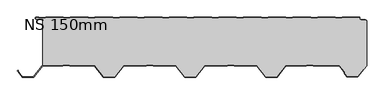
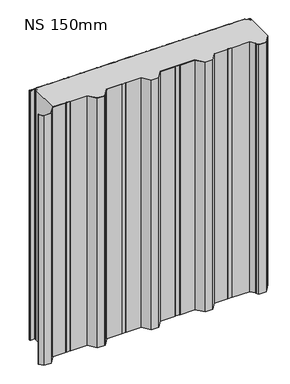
"""IFC4 building model written with IfcOpenShell, lengths in millimetres: plate geometry, KIP-MEX-KC-R19-CP-NS-SL : NS 150mm."""

from ifc_helpers import new_model, si_unit, point, frame, frame_2d, origin, origin_with_axes, place, context, project, spatial, polyline, circle_curve, trimmed, segment, composite_curve, outline, extrude, source, transform, mapped, element, save
from ifc_brep_helpers import plane_surface, cylinder_surface, revolved_surface, advanced_brep


def ns_150mm_ed0a11b4(model_context):
    return source(origin(), model_context, "Body", "SolidModel", [
        advanced_brep(
        [(489.051258, -160.0327477, 1224.3718713), (491.4166419, -155.6292245, 1224.3718713), (492.2982989, -156.1011177, 1224.3718713), (489.8911639, -160.5823669, 1224.3718713), (498.3652789, -149.7971296, 1224.3718713), (498.3666923, -11.2514375, 1224.3718713), (496.0840542, -13.6351997, 1224.3718713), (490.2938452, -14.1562355, 1224.3718713), (490.2059002, -13.178913, 1224.3718713), (495.9395891, -12.6629632, 1224.3718713), (497.3642752, -10.8760369, 1224.3718713), (495.9342793, -8.8936988, 1224.3718713), (479.8720443, -7.4885937, 1224.3718713), (477.1334803, -4.5000049, 1224.3718713), (477.1334803, -1.0, 1224.3718713), (424.1786391, -1.0, 1224.3718713), (422.7930062, -2.2002307, 1224.3718713), (403.4178399, -2.2002307, 1224.3718713), (402.0322069, -1.0, 1224.3718713), (347.9787915, -1.0, 1224.3718713), (346.5931586, -2.2002307, 1224.3718713), (327.2179923, -2.2002307, 1224.3718713), (325.8323593, -1.0, 1224.3718713), (271.7789439, -1.0, 1224.3718713), (270.393311, -2.2002307, 1224.3718713), (251.0181447, -2.2002307, 1224.3718713), (249.6325117, -1.0, 1224.3718713), (195.5790963, -1.0, 1224.3718713), (194.1934634, -2.2002307, 1224.3718713), (174.8182971, -2.2002307, 1224.3718713), (173.4326641, -1.0, 1224.3718713), (119.3792487, -1.0, 1224.3718713), (117.9936158, -2.2002307, 1224.3718713), (98.6184495, -2.2002307, 1224.3718713), (97.2328165, -1.0, 1224.3718713), (43.1794011, -1.0, 1224.3718713), (41.7937682, -2.2002307, 1224.3718713), (22.4186019, -2.2002307, 1224.3718713), (21.0329689, -1.0, 1224.3718713), (-33.0204465, -1.0, 1224.3718713), (-34.4060794, -2.2002307, 1224.3718713), (-53.7812457, -2.2002307, 1224.3718713), (-55.1668787, -1.0, 1224.3718713), (-109.2202941, -1.0, 1224.3718713), (-110.605927, -2.2002307, 1224.3718713), (-129.9810933, -2.2002307, 1224.3718713), (-131.3667263, -1.0, 1224.3718713), (-185.4201417, -1.0, 1224.3718713), (-186.8057746, -2.2002307, 1224.3718713), (-206.1809409, -2.2002307, 1224.3718713), (-207.5665739, -1.0, 1224.3718713), (-261.6199893, -1.0, 1224.3718713), (-263.0056222, -2.2002307, 1224.3718713), (-282.3807885, -2.2002307, 1224.3718713), (-283.7664215, -1.0, 1224.3718713), (-337.8198369, -1.0, 1224.3718713), (-339.2054698, -2.2002307, 1224.3718713), (-358.5806361, -2.2002307, 1224.3718713), (-359.9662691, -1.0, 1224.3718713), (-414.0196845, -1.0, 1224.3718713), (-415.4053174, -2.2002307, 1224.3718713), (-434.7804837, -2.2002307, 1224.3718713), (-436.1661167, -1.0, 1224.3718713), (-490.2195321, -1.0, 1224.3718713), (-491.605165, -2.2002307, 1224.3718713), (-510.9803313, -2.2002307, 1224.3718713), (-512.365974, -0.9999916, 1224.3718713), (-520.8675386, -0.9999916, 1224.3718713), (-520.8675386, -2.4999198, 1224.3718713), (-518.3676343, -4.9998241, 1224.3718713), (-500.3670493, -4.9998241, 1224.3718713), (-497.3666912, -7.998082, 1224.3718713), (-497.3666912, -11.5943952, 1224.3718713), (-496.1253972, -13.0725686, 1224.3718713), (-492.5830624, -13.6943971, 1224.3718713), (-492.7559608, -14.6793372, 1224.3718713), (-496.2982963, -14.0575086, 1224.3718713), (-498.3666923, -11.5958694, 1224.3718713), (-498.3666923, -149.0, 1224.3718713), (-437.8440582, -149.0, 1224.3718713), (-436.4297751, -147.9999989, 1224.3718713), (-417.2222535, -147.9999989, 1224.3718713), (-415.8079704, -149.0, 1224.3718713), (-339.3089934, -149.0, 1224.3718713), (-311.8089635, -184.000038, 1224.3718713), (-277.7809961, -184.000038, 1224.3718713), (-250.2809663, -149.0, 1224.3718713), (-180.8128881, -149.0, 1224.3718713), (-179.398605, -147.9999989, 1224.3718713), (-160.1910833, -147.9999989, 1224.3718713), (-158.7768003, -149.0, 1224.3718713), (-89.3087221, -149.0, 1224.3718713), (-61.8086922, -184.000038, 1224.3718713), (-27.7807248, -184.000038, 1224.3718713), (-0.280695, -149.0, 1224.3718713), (69.1090864, -149.0, 1224.3718713), (70.1732653, -147.9999989, 1224.3718713), (89.809188, -147.9999989, 1224.3718713), (91.2234711, -149.0, 1224.3718713), (160.6915492, -149.0, 1224.3718713), (188.1915791, -184.000038, 1224.3718713), (222.2195465, -184.000038, 1224.3718713), (249.7195763, -149.0, 1224.3718713), (312.1567557, -149.0, 1224.3718713), (313.5710388, -147.9999989, 1224.3718713), (332.7785605, -147.9999989, 1224.3718713), (334.1928435, -149.0, 1224.3718713), (414.6918249, -149.0, 1224.3718713), (430.7058064, -169.3814311, 1224.3718713), (430.7058064, -173.199617, 1224.3718713), (438.4061363, -183.0000369, 1224.3718713), (471.0055308, -183.0000369, 1224.3718713), (489.051258, -160.0327477, 0.0), (471.0055308, -183.0000369, 0.0), (438.4061363, -183.0000369, 0.0), (430.7058064, -173.199617, 0.0), (430.7058064, -169.3814311, 0.0), (414.6918249, -149.0, 0.0), (334.1928435, -149.0, 0.0), (332.7785605, -147.9999989, 0.0), (313.5710388, -147.9999989, 0.0), (312.1567557, -149.0, 0.0), (249.7195763, -149.0, 0.0), (222.2195465, -184.000038, 0.0), (188.1915791, -184.000038, 0.0), (160.6915492, -149.0, 0.0), (91.2234711, -149.0, 0.0), (89.809188, -147.9999989, 0.0), (70.1732653, -147.9999989, 0.0), (69.1090864, -149.0, 0.0), (-0.280695, -149.0, 0.0), (-27.7807248, -184.000038, 0.0), (-61.8086922, -184.000038, 0.0), (-89.3087221, -149.0, 0.0), (-158.7768003, -149.0, 0.0), (-160.1910833, -147.9999989, 0.0), (-179.398605, -147.9999989, 0.0), (-180.8128881, -149.0, 0.0), (-250.2809663, -149.0, 0.0), (-277.7809961, -184.000038, 0.0), (-311.8089635, -184.000038, 0.0), (-339.3089934, -149.0, 0.0), (-415.8079704, -149.0, 0.0), (-417.2222535, -147.9999989, 0.0), (-436.4297751, -147.9999989, 0.0), (-437.8440582, -149.0, 0.0), (-498.3666923, -149.0, 0.0), (-498.3666923, -11.5958694, 0.0), (-496.2982963, -14.0575086, 0.0), (-492.7559608, -14.6793372, 0.0), (-492.5830624, -13.6943971, 0.0), (-496.1253972, -13.0725686, 0.0), (-497.3666912, -11.5943952, 0.0), (-497.3666912, -7.998082, 0.0), (-500.3670493, -4.9998241, 0.0), (-518.3676343, -4.9998241, 0.0), (-520.8675386, -2.4999198, 0.0), (-520.8675386, -0.9999916, 0.0), (-512.365974, -0.9999916, 0.0), (-510.9803313, -2.2002307, 0.0), (-491.605165, -2.2002307, 0.0), (-490.2195321, -1.0, 0.0), (-436.1661167, -1.0, 0.0), (-434.7804837, -2.2002307, 0.0), (-415.4053174, -2.2002307, 0.0), (-414.0196845, -1.0, 0.0), (-359.9662691, -1.0, 0.0), (-358.5806361, -2.2002307, 0.0), (-339.2054698, -2.2002307, 0.0), (-337.8198369, -1.0, 0.0), (-283.7664215, -1.0, 0.0), (-282.3807885, -2.2002307, 0.0), (-263.0056222, -2.2002307, 0.0), (-261.6199893, -1.0, 0.0), (-207.5665739, -1.0, 0.0), (-206.1809409, -2.2002307, 0.0), (-186.8057746, -2.2002307, 0.0), (-185.4201417, -1.0, 0.0), (-131.3667263, -1.0, 0.0), (-129.9810933, -2.2002307, 0.0), (-110.605927, -2.2002307, 0.0), (-109.2202941, -1.0, 0.0), (-55.1668787, -1.0, 0.0), (-53.7812457, -2.2002307, 0.0), (-34.4060794, -2.2002307, 0.0), (-33.0204465, -1.0, 0.0), (21.0329689, -1.0, 0.0), (22.4186019, -2.2002307, 0.0), (41.7937682, -2.2002307, 0.0), (43.1794011, -1.0, 0.0), (97.2328165, -1.0, 0.0), (98.6184495, -2.2002307, 0.0), (117.9936158, -2.2002307, 0.0), (119.3792487, -1.0, 0.0), (173.4326641, -1.0, 0.0), (174.8182971, -2.2002307, 0.0), (194.1934634, -2.2002307, 0.0), (195.5790963, -1.0, 0.0), (249.6325117, -1.0, 0.0), (251.0181447, -2.2002307, 0.0), (270.393311, -2.2002307, 0.0), (271.7789439, -1.0, 0.0), (325.8323593, -1.0, 0.0), (327.2179923, -2.2002307, 0.0), (346.5931586, -2.2002307, 0.0), (347.9787915, -1.0, 0.0), (402.0322069, -1.0, 0.0), (403.4178399, -2.2002307, 0.0), (422.7930062, -2.2002307, 0.0), (424.1786391, -1.0, 0.0), (477.1334803, -1.0, 0.0), (477.1334803, -4.5000049, 0.0), (479.8720443, -7.4885937, 0.0), (495.9342793, -8.8936988, 0.0), (497.3642752, -10.8760369, 0.0), (495.9395891, -12.6629632, 0.0), (490.2059002, -13.178913, 0.0), (490.2938452, -14.1562355, 0.0), (496.0840542, -13.6351997, 0.0), (498.3666923, -11.2514375, 0.0), (498.3652789, -149.7971296, 0.0), (489.8911639, -160.5823669, 0.0), (492.2982989, -156.1011177, 0.0), (491.4166419, -155.6292245, 0.0)],
        [
            (0, 1),
            (1, 2),
            (2, 3),
            (3, 4),
            (4, 5),
            (5, 6, circle_curve(frame((495.5554081, -10.8441969, 1224.3718713), z_axis=(0.0, 0.0, -1.0), x_axis=(0.0, -1.0, 0.0)), 2.8406273)),
            (6, 7),
            (7, 8),
            (8, 9),
            (9, 10, circle_curve(frame((495.560247, -10.8991179, 1224.3718713), z_axis=(0.0, 0.0, 1.0), x_axis=(0.0, -1.0, 0.0)), 1.8041759)),
            (10, 11, circle_curve(frame((495.5292107, -10.6928483, 1224.3718713), z_axis=(0.0, 0.0, 1.0), x_axis=(0.0, -1.0, 0.0)), 1.8441854)),
            (11, 12),
            (12, 13, circle_curve(frame((480.1334825, -4.5000049, 1224.3718713), z_axis=(0.0, 0.0, -1.0), x_axis=(0.0, -1.0, 0.0)), 3.0000022)),
            (13, 14),
            (14, 15),
            (15, 16),
            (16, 17),
            (17, 18),
            (18, 19),
            (19, 20),
            (20, 21),
            (21, 22),
            (22, 23),
            (23, 24),
            (24, 25),
            (25, 26),
            (26, 27),
            (27, 28),
            (28, 29),
            (29, 30),
            (30, 31),
            (31, 32),
            (32, 33),
            (33, 34),
            (34, 35),
            (35, 36),
            (36, 37),
            (37, 38),
            (38, 39),
            (39, 40),
            (40, 41),
            (41, 42),
            (42, 43),
            (43, 44),
            (44, 45),
            (45, 46),
            (46, 47),
            (47, 48),
            (48, 49),
            (49, 50),
            (50, 51),
            (51, 52),
            (52, 53),
            (53, 54),
            (54, 55),
            (55, 56),
            (56, 57),
            (57, 58),
            (58, 59),
            (59, 60),
            (60, 61),
            (61, 62),
            (62, 63),
            (63, 64),
            (64, 65),
            (65, 66),
            (66, 67),
            (67, 68),
            (68, 69, circle_curve(frame((-518.3676343, -2.4999198, 1224.3718713), z_axis=(0.0, 0.0, 1.0), x_axis=(0.0, -1.0, 0.0)), 2.4999043)),
            (69, 70),
            (70, 71, circle_curve(frame((-500.3670493, -8.0001829, 1224.3718713), z_axis=(0.0, 0.0, -1.0), x_axis=(0.0, -1.0, 0.0)), 3.0003589)),
            (71, 72),
            (72, 73, circle_curve(frame((-495.8659157, -11.5943952, 1224.3718713), z_axis=(0.0, 0.0, 1.0), x_axis=(0.0, -1.0, 0.0)), 1.5007755)),
            (73, 74),
            (74, 75),
            (75, 76),
            (76, 77, circle_curve(frame((-495.8659164, -11.5943948, 1224.3718713), z_axis=(0.0, 0.0, -1.0), x_axis=(0.0, -1.0, 0.0)), 2.5007762)),
            (77, 78),
            (78, 79),
            (79, 80),
            (80, 81),
            (81, 82),
            (82, 83),
            (83, 84),
            (84, 85),
            (85, 86),
            (86, 87),
            (87, 88),
            (88, 89),
            (89, 90),
            (90, 91),
            (91, 92),
            (92, 93),
            (93, 94),
            (94, 95),
            (95, 96),
            (96, 97),
            (97, 98),
            (98, 99),
            (99, 100),
            (100, 101),
            (101, 102),
            (102, 103),
            (103, 104),
            (104, 105),
            (105, 106),
            (106, 107),
            (107, 108),
            (108, 109),
            (109, 110),
            (110, 111),
            (111, 0),
            (112, 113),
            (113, 114),
            (114, 115),
            (115, 116),
            (116, 117),
            (117, 118),
            (118, 119),
            (119, 120),
            (120, 121),
            (121, 122),
            (122, 123),
            (123, 124),
            (124, 125),
            (125, 126),
            (126, 127),
            (127, 128),
            (128, 129),
            (129, 130),
            (130, 131),
            (131, 132),
            (132, 133),
            (133, 134),
            (134, 135),
            (135, 136),
            (136, 137),
            (137, 138),
            (138, 139),
            (139, 140),
            (140, 141),
            (141, 142),
            (142, 143),
            (143, 144),
            (144, 145),
            (145, 146),
            (146, 147),
            (147, 148, circle_curve(frame((-495.8659164, -11.5943948, 0.0), z_axis=(0.0, 0.0, 1.0), x_axis=(0.0, -1.0, 0.0)), 2.5007762)),
            (148, 149),
            (149, 150),
            (150, 151),
            (151, 152, circle_curve(frame((-495.8659157, -11.5943952, 0.0), z_axis=(0.0, 0.0, -1.0), x_axis=(0.0, -1.0, 0.0)), 1.5007755)),
            (152, 153),
            (153, 154, circle_curve(frame((-500.3670493, -8.0001829, 0.0), z_axis=(0.0, 0.0, 1.0), x_axis=(0.0, -1.0, 0.0)), 3.0003589)),
            (154, 155),
            (155, 156, circle_curve(frame((-518.3676343, -2.4999198, 0.0), z_axis=(0.0, 0.0, -1.0), x_axis=(0.0, -1.0, 0.0)), 2.4999043)),
            (156, 157),
            (157, 158),
            (158, 159),
            (159, 160),
            (160, 161),
            (161, 162),
            (162, 163),
            (163, 164),
            (164, 165),
            (165, 166),
            (166, 167),
            (167, 168),
            (168, 169),
            (169, 170),
            (170, 171),
            (171, 172),
            (172, 173),
            (173, 174),
            (174, 175),
            (175, 176),
            (176, 177),
            (177, 178),
            (178, 179),
            (179, 180),
            (180, 181),
            (181, 182),
            (182, 183),
            (183, 184),
            (184, 185),
            (185, 186),
            (186, 187),
            (187, 188),
            (188, 189),
            (189, 190),
            (190, 191),
            (191, 192),
            (192, 193),
            (193, 194),
            (194, 195),
            (195, 196),
            (196, 197),
            (197, 198),
            (198, 199),
            (199, 200),
            (200, 201),
            (201, 202),
            (202, 203),
            (203, 204),
            (204, 205),
            (205, 206),
            (206, 207),
            (207, 208),
            (208, 209),
            (209, 210),
            (210, 211),
            (211, 212, circle_curve(frame((480.1334825, -4.5000049, 0.0), z_axis=(0.0, 0.0, 1.0), x_axis=(0.0, -1.0, 0.0)), 3.0000022)),
            (212, 213),
            (213, 214, circle_curve(frame((495.5292107, -10.6928483, 0.0), z_axis=(0.0, 0.0, -1.0), x_axis=(0.0, -1.0, 0.0)), 1.8441854)),
            (214, 215, circle_curve(frame((495.560247, -10.8991179, 0.0), z_axis=(0.0, 0.0, -1.0), x_axis=(0.0, -1.0, 0.0)), 1.8041759)),
            (215, 216),
            (216, 217),
            (217, 218),
            (218, 219, circle_curve(frame((495.5554081, -10.8441969, 0.0), z_axis=(0.0, 0.0, 1.0), x_axis=(0.0, -1.0, 0.0)), 2.8406273)),
            (219, 220),
            (220, 221),
            (221, 222),
            (222, 223),
            (223, 112),
            (0, 112),
            (223, 1),
            (111, 113),
            (110, 114),
            (109, 115),
            (108, 116),
            (107, 117),
            (106, 118),
            (105, 119),
            (104, 120),
            (103, 121),
            (102, 122),
            (101, 123),
            (100, 124),
            (99, 125),
            (98, 126),
            (97, 127),
            (96, 128),
            (95, 129),
            (94, 130),
            (93, 131),
            (92, 132),
            (91, 133),
            (90, 134),
            (89, 135),
            (88, 136),
            (87, 137),
            (86, 138),
            (85, 139),
            (84, 140),
            (83, 141),
            (82, 142),
            (81, 143),
            (80, 144),
            (79, 145),
            (78, 146),
            (2, 222),
            (221, 3),
            (220, 4),
            (219, 5),
            (77, 147),
            (73, 151),
            (150, 74),
            (72, 152),
            (71, 153),
            (70, 154),
            (69, 155),
            (68, 156),
            (67, 157),
            (13, 211),
            (210, 14),
            (12, 212),
            (11, 213),
            (10, 214),
            (9, 215),
            (8, 216),
            (7, 217),
            (6, 218),
            (76, 148),
            (75, 149),
            (66, 158),
            (65, 159),
            (64, 160),
            (63, 161),
            (62, 162),
            (61, 163),
            (60, 164),
            (59, 165),
            (58, 166),
            (57, 167),
            (56, 168),
            (55, 169),
            (54, 170),
            (53, 171),
            (52, 172),
            (51, 173),
            (50, 174),
            (49, 175),
            (48, 176),
            (47, 177),
            (46, 178),
            (45, 179),
            (44, 180),
            (43, 181),
            (42, 182),
            (41, 183),
            (40, 184),
            (39, 185),
            (38, 186),
            (37, 187),
            (36, 188),
            (35, 189),
            (34, 190),
            (33, 191),
            (32, 192),
            (31, 193),
            (30, 194),
            (29, 195),
            (28, 196),
            (27, 197),
            (26, 198),
            (25, 199),
            (24, 200),
            (23, 201),
            (22, 202),
            (21, 203),
            (20, 204),
            (19, 205),
            (18, 206),
            (17, 207),
            (16, 208),
            (15, 209),
        ],
        [
            plane_surface(frame((0.0, -149.0, 1224.3718713), z_axis=(0.0, 0.0, 1.0), x_axis=(0.0, -1.0, 0.0))),
            plane_surface(frame((0.0, -149.0, 0.0), z_axis=(0.0, 0.0, -1.0), x_axis=(0.0, -1.0, 0.0))),
            plane_surface(frame((491.4166419, -155.6292245, 1224.3718713), z_axis=(0.8809503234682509, -0.4732087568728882, 0.0), x_axis=(0.0, 0.0, -1.0))),
            plane_surface(frame((489.051258, -160.0327477, 1224.3718713), z_axis=(0.7863183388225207, -0.6178215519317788, 0.0), x_axis=(0.0, 0.0, -1.0))),
            plane_surface(frame((471.0055308, -183.0000369, 1224.3718713), z_axis=(0.0, -1.0, 0.0), x_axis=(0.0, 0.0, -1.0))),
            plane_surface(frame((438.4061363, -183.0000369, 1224.3718713), z_axis=(-0.7863183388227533, -0.6178215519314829, 0.0), x_axis=(0.0, 0.0, -1.0))),
            plane_surface(frame((430.7058064, -173.199617, 1224.3718713), z_axis=(-1.0, 0.0, 0.0), x_axis=(0.0, 0.0, -1.0))),
            plane_surface(frame((430.7058064, -169.3814311, 1224.3718713), z_axis=(-0.7863183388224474, -0.6178215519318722, 0.0), x_axis=(0.0, 0.0, -1.0))),
            plane_surface(frame((414.6918249, -149.0, 1224.3718713), z_axis=(0.0, -1.0, 0.0), x_axis=(0.0, 0.0, -1.0))),
            plane_surface(frame((334.1928435, -149.0, 1224.3718713), z_axis=(-0.5773317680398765, -0.8165096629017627, 0.0), x_axis=(0.0, 0.0, -1.0))),
            plane_surface(frame((332.7785605, -147.9999989, 1224.3718713), z_axis=(0.0, -1.0, 0.0), x_axis=(0.0, 0.0, -1.0))),
            plane_surface(frame((313.5710388, -147.9999989, 1224.3718713), z_axis=(0.5773317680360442, -0.8165096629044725, 0.0), x_axis=(0.0, 0.0, -1.0))),
            plane_surface(frame((312.1567557, -149.0, 1224.3718713), z_axis=(0.0, -1.0, 0.0), x_axis=(0.0, 0.0, -1.0))),
            plane_surface(frame((249.7195763, -149.0, 1224.3718713), z_axis=(0.7863183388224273, -0.6178215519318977, 0.0), x_axis=(0.0, 0.0, -1.0))),
            plane_surface(frame((222.2195465, -184.000038, 1224.3718713), z_axis=(0.0, -1.0, 0.0), x_axis=(0.0, 0.0, -1.0))),
            plane_surface(frame((188.1915791, -184.000038, 1224.3718713), z_axis=(-0.7863183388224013, -0.6178215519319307, 0.0), x_axis=(0.0, 0.0, -1.0))),
            plane_surface(frame((160.6915492, -149.0, 1224.3718713), z_axis=(0.0, -1.0, 0.0), x_axis=(0.0, 0.0, -1.0))),
            plane_surface(frame((91.2234711, -149.0, 1224.3718713), z_axis=(-0.5773317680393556, -0.8165096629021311, 0.0), x_axis=(0.0, 0.0, -1.0))),
            plane_surface(frame((89.809188, -147.9999989, 1224.3718713), z_axis=(0.0, -1.0, 0.0), x_axis=(0.0, 0.0, -1.0))),
            plane_surface(frame((70.1732653, -147.9999989, 1224.3718713), z_axis=(0.6847910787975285, -0.7287394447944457, 0.0), x_axis=(0.0, 0.0, -1.0))),
            plane_surface(frame((69.1090864, -149.0, 1224.3718713), z_axis=(0.0, -1.0, 0.0), x_axis=(0.0, 0.0, -1.0))),
            plane_surface(frame((-0.280695, -149.0, 1224.3718713), z_axis=(0.7863183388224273, -0.6178215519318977, 0.0), x_axis=(0.0, 0.0, -1.0))),
            plane_surface(frame((-27.7807248, -184.000038, 1224.3718713), z_axis=(0.0, -1.0, 0.0), x_axis=(0.0, 0.0, -1.0))),
            plane_surface(frame((-61.8086922, -184.000038, 1224.3718713), z_axis=(-0.786318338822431, -0.617821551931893, 0.0), x_axis=(0.0, 0.0, -1.0))),
            plane_surface(frame((-89.3087221, -149.0, 1224.3718713), z_axis=(0.0, -1.0, 0.0), x_axis=(0.0, 0.0, -1.0))),
            plane_surface(frame((-158.7768003, -149.0, 1224.3718713), z_axis=(-0.5773317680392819, -0.8165096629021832, 0.0), x_axis=(0.0, 0.0, -1.0))),
            plane_surface(frame((-160.1910833, -147.9999989, 1224.3718713), z_axis=(0.0, -1.0, 0.0), x_axis=(0.0, 0.0, -1.0))),
            plane_surface(frame((-179.398605, -147.9999989, 1224.3718713), z_axis=(0.577331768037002, -0.8165096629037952, 0.0), x_axis=(0.0, 0.0, -1.0))),
            plane_surface(frame((-180.8128881, -149.0, 1224.3718713), z_axis=(0.0, -1.0, 0.0), x_axis=(0.0, 0.0, -1.0))),
            plane_surface(frame((-250.2809663, -149.0, 1224.3718713), z_axis=(0.7863183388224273, -0.6178215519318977, 0.0), x_axis=(0.0, 0.0, -1.0))),
            plane_surface(frame((-277.7809961, -184.000038, 1224.3718713), z_axis=(0.0, -1.0, 0.0), x_axis=(0.0, 0.0, -1.0))),
            plane_surface(frame((-311.8089635, -184.000038, 1224.3718713), z_axis=(-0.7863183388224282, -0.6178215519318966, 0.0), x_axis=(0.0, 0.0, -1.0))),
            plane_surface(frame((-339.3089934, -149.0, 1224.3718713), z_axis=(0.0, -1.0, 0.0), x_axis=(0.0, 0.0, -1.0))),
            plane_surface(frame((-415.8079704, -149.0, 1224.3718713), z_axis=(-0.577331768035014, -0.8165096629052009, 0.0), x_axis=(0.0, 0.0, -1.0))),
            plane_surface(frame((-417.2222535, -147.9999989, 1224.3718713), z_axis=(0.0, -1.0, 0.0), x_axis=(0.0, 0.0, -1.0))),
            plane_surface(frame((-436.4297751, -147.9999989, 1224.3718713), z_axis=(0.577331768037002, -0.8165096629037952, 0.0), x_axis=(0.0, 0.0, -1.0))),
            plane_surface(frame((-437.8440582, -149.0, 1224.3718713), z_axis=(0.0, -1.0, 0.0), x_axis=(0.0, 0.0, -1.0))),
            plane_surface(frame((489.8911639, -160.5823669, 1224.3718713), z_axis=(-0.8809503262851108, 0.4732087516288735, 0.0), x_axis=(0.0, 0.0, -1.0))),
            plane_surface(frame((492.2982989, -156.1011177, 1224.3718713), z_axis=(-0.4718927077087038, -0.8816559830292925, 0.0), x_axis=(0.0, 0.0, -1.0))),
            plane_surface(frame((498.3652789, -149.7971296, 1224.3718713), z_axis=(0.7863183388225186, -0.6178215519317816, 0.0), x_axis=(0.0, 0.0, -1.0))),
            plane_surface(frame((498.3652789, -144.8065083, 1224.3718713), z_axis=(1.0, 0.0, 0.0), x_axis=(0.0, 0.0, -1.0))),
            plane_surface(frame((-498.3666923, -149.0, 1224.3718713), z_axis=(-1.0, 0.0, 0.0), x_axis=(0.0, 0.0, -1.0))),
            plane_surface(frame((-492.5830624, -13.6943971, 1224.3718713), z_axis=(-0.17289827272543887, -0.9849396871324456, 0.0), x_axis=(0.0, 0.0, -1.0))),
            cylinder_surface(frame((-495.8659157, -11.5943952, 1224.3718713), z_axis=(0.0, 0.0, 1.0), x_axis=(0.0, -1.0, 0.0)), 1.5007755),
            plane_surface(frame((-497.3666912, -11.5943952, 1224.3718713), z_axis=(-1.0, 0.0, 0.0), x_axis=(0.0, 0.0, -1.0))),
            revolved_surface(polyline([(-500.3670493, -11.0005418, 0.0), (-500.3670493, -11.0005418, 1224.3718713)]), (-500.3670493, -8.0001829, 1224.3718713), (0.0, 0.0, -1.0)),
            plane_surface(frame((-500.3670493, -4.9998241, 1224.3718713), z_axis=(0.0, -1.0, 0.0), x_axis=(0.0, 0.0, -1.0))),
            cylinder_surface(frame((-518.3676343, -2.4999198, 1224.3718713), z_axis=(0.0, 0.0, 1.0), x_axis=(0.0, -1.0, 0.0)), 2.4999043),
            plane_surface(frame((-520.8675386, -2.4999198, 1224.3718713), z_axis=(-1.0, 0.0, 0.0), x_axis=(0.0, 0.0, -1.0))),
            plane_surface(frame((477.1334803, -1.0, 1224.3718713), z_axis=(1.0, 0.0, 0.0), x_axis=(0.0, 0.0, -1.0))),
            revolved_surface(polyline([(480.1334825, -7.5000071, 0.0), (480.1334825, -7.5000071, 1224.3718713)]), (480.1334825, -4.5000049, 1224.3718713), (0.0, 0.0, -1.0)),
            plane_surface(frame((479.8720443, -7.4885937, 1224.3718713), z_axis=(0.0871459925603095, 0.9961955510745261, 0.0), x_axis=(0.0, 0.0, -1.0))),
            cylinder_surface(frame((495.5292107, -10.6928483, 1224.3718713), z_axis=(0.0, 0.0, 1.0), x_axis=(0.0, -1.0, 0.0)), 1.8441854),
            cylinder_surface(frame((495.560247, -10.8991179, 1224.3718713), z_axis=(0.0, 0.0, 1.0), x_axis=(0.0, -1.0, 0.0)), 1.8041759),
            plane_surface(frame((495.9395891, -12.6629632, 1224.3718713), z_axis=(0.0896235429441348, -0.995975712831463, 0.0), x_axis=(0.0, 0.0, -1.0))),
            plane_surface(frame((490.2059002, -13.178913, 1224.3718713), z_axis=(0.9959757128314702, 0.08962354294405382, 0.0), x_axis=(0.0, 0.0, -1.0))),
            plane_surface(frame((490.2938452, -14.1562355, 1224.3718713), z_axis=(-0.0896235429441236, 0.995975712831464, 0.0), x_axis=(0.0, 0.0, -1.0))),
            revolved_surface(polyline([(495.5554081, -13.6848242, 0.0), (495.5554081, -13.6848242, 1224.3718713)]), (495.5554081, -10.8441969, 1224.3718713), (0.0, 0.0, -1.0)),
            revolved_surface(polyline([(-495.8659164, -14.095171, 0.0), (-495.8659164, -14.095171, 1224.3718713)]), (-495.8659164, -11.5943948, 1224.3718713), (0.0, 0.0, -1.0)),
            plane_surface(frame((-496.2982963, -14.0575086, 1224.3718713), z_axis=(0.17289827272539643, 0.9849396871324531, 0.0), x_axis=(0.0, 0.0, -1.0))),
            plane_surface(frame((-492.7559608, -14.6793372, 1224.3718713), z_axis=(-0.9849396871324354, 0.1728982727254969, 0.0), x_axis=(0.0, 0.0, -1.0))),
            plane_surface(frame((-520.8675386, -0.9999916, 1224.3718713), z_axis=(0.0, 1.0, 0.0), x_axis=(0.0, 0.0, -1.0))),
            plane_surface(frame((-512.365974, -0.9999916, 1224.3718713), z_axis=(0.6547276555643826, 0.7558648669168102, 0.0), x_axis=(0.0, 0.0, -1.0))),
            plane_surface(frame((-510.9803313, -2.2002307, 1224.3718713), z_axis=(0.0, 1.0, 0.0), x_axis=(0.0, 0.0, -1.0))),
            plane_surface(frame((-491.605165, -2.2002307, 1224.3718713), z_axis=(-0.6547276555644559, 0.7558648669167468, 0.0), x_axis=(0.0, 0.0, -1.0))),
            plane_surface(frame((-490.2195321, -1.0, 1224.3718713), z_axis=(0.0, 1.0, 0.0), x_axis=(0.0, 0.0, -1.0))),
            plane_surface(frame((-436.1661167, -1.0, 1224.3718713), z_axis=(0.6547276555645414, 0.7558648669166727, 0.0), x_axis=(0.0, 0.0, -1.0))),
            plane_surface(frame((-434.7804837, -2.2002307, 1224.3718713), z_axis=(0.0, 1.0, 0.0), x_axis=(0.0, 0.0, -1.0))),
            plane_surface(frame((-415.4053174, -2.2002307, 1224.3718713), z_axis=(-0.6547276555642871, 0.755864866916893, 0.0), x_axis=(0.0, 0.0, -1.0))),
            plane_surface(frame((-414.0196845, -1.0, 1224.3718713), z_axis=(0.0, 1.0, 0.0), x_axis=(0.0, 0.0, -1.0))),
            plane_surface(frame((-359.9662691, -1.0, 1224.3718713), z_axis=(0.6547276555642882, 0.7558648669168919, 0.0), x_axis=(0.0, 0.0, -1.0))),
            plane_surface(frame((-358.5806361, -2.2002307, 1224.3718713), z_axis=(0.0, 1.0, 0.0), x_axis=(0.0, 0.0, -1.0))),
            plane_surface(frame((-339.2054698, -2.2002307, 1224.3718713), z_axis=(-0.6547276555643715, 0.7558648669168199, 0.0), x_axis=(0.0, 0.0, -1.0))),
            plane_surface(frame((-337.8198369, -1.0, 1224.3718713), z_axis=(0.0, 1.0, 0.0), x_axis=(0.0, 0.0, -1.0))),
            plane_surface(frame((-283.7664215, -1.0, 1224.3718713), z_axis=(0.6547276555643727, 0.7558648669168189, 0.0), x_axis=(0.0, 0.0, -1.0))),
            plane_surface(frame((-282.3807885, -2.2002307, 1224.3718713), z_axis=(0.0, 1.0, 0.0), x_axis=(0.0, 0.0, -1.0))),
            plane_surface(frame((-263.0056222, -2.2002307, 1224.3718713), z_axis=(-0.6547276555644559, 0.7558648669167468, 0.0), x_axis=(0.0, 0.0, -1.0))),
            plane_surface(frame((-261.6199893, -1.0, 1224.3718713), z_axis=(0.0, 1.0, 0.0), x_axis=(0.0, 0.0, -1.0))),
            plane_surface(frame((-207.5665739, -1.0, 1224.3718713), z_axis=(0.654727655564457, 0.7558648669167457, 0.0), x_axis=(0.0, 0.0, -1.0))),
            plane_surface(frame((-206.1809409, -2.2002307, 1224.3718713), z_axis=(0.0, 1.0, 0.0), x_axis=(0.0, 0.0, -1.0))),
            plane_surface(frame((-186.8057746, -2.2002307, 1224.3718713), z_axis=(-0.6547276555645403, 0.7558648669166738, 0.0), x_axis=(0.0, 0.0, -1.0))),
            plane_surface(frame((-185.4201417, -1.0, 1224.3718713), z_axis=(0.0, 1.0, 0.0), x_axis=(0.0, 0.0, -1.0))),
            plane_surface(frame((-131.3667263, -1.0, 1224.3718713), z_axis=(0.6547276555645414, 0.7558648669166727, 0.0), x_axis=(0.0, 0.0, -1.0))),
            plane_surface(frame((-129.9810933, -2.2002307, 1224.3718713), z_axis=(0.0, 1.0, 0.0), x_axis=(0.0, 0.0, -1.0))),
            plane_surface(frame((-110.605927, -2.2002307, 1224.3718713), z_axis=(-0.6547276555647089, 0.7558648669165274, 0.0), x_axis=(0.0, 0.0, -1.0))),
            plane_surface(frame((-109.2202941, -1.0, 1224.3718713), z_axis=(0.0, 1.0, 0.0), x_axis=(0.0, 0.0, -1.0))),
            plane_surface(frame((-55.1668787, -1.0, 1224.3718713), z_axis=(0.6547276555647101, 0.7558648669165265, 0.0), x_axis=(0.0, 0.0, -1.0))),
            plane_surface(frame((-53.7812457, -2.2002307, 1224.3718713), z_axis=(0.0, 1.0, 0.0), x_axis=(0.0, 0.0, -1.0))),
            plane_surface(frame((-34.4060794, -2.2002307, 1224.3718713), z_axis=(-0.6547276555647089, 0.7558648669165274, 0.0), x_axis=(0.0, 0.0, -1.0))),
            plane_surface(frame((-33.0204465, -1.0, 1224.3718713), z_axis=(0.0, 1.0, 0.0), x_axis=(0.0, 0.0, -1.0))),
            plane_surface(frame((21.0329689, -1.0, 1224.3718713), z_axis=(0.6547276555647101, 0.7558648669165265, 0.0), x_axis=(0.0, 0.0, -1.0))),
            plane_surface(frame((22.4186019, -2.2002307, 1224.3718713), z_axis=(0.0, 1.0, 0.0), x_axis=(0.0, 0.0, -1.0))),
            plane_surface(frame((41.7937682, -2.2002307, 1224.3718713), z_axis=(-0.6547276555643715, 0.7558648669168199, 0.0), x_axis=(0.0, 0.0, -1.0))),
            plane_surface(frame((43.1794011, -1.0, 1224.3718713), z_axis=(0.0, 1.0, 0.0), x_axis=(0.0, 0.0, -1.0))),
            plane_surface(frame((97.2328165, -1.0, 1224.3718713), z_axis=(0.6547276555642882, 0.7558648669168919, 0.0), x_axis=(0.0, 0.0, -1.0))),
            plane_surface(frame((98.6184495, -2.2002307, 1224.3718713), z_axis=(0.0, 1.0, 0.0), x_axis=(0.0, 0.0, -1.0))),
            plane_surface(frame((117.9936158, -2.2002307, 1224.3718713), z_axis=(-0.6547276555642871, 0.755864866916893, 0.0), x_axis=(0.0, 0.0, -1.0))),
            plane_surface(frame((119.3792487, -1.0, 1224.3718713), z_axis=(0.0, 1.0, 0.0), x_axis=(0.0, 0.0, -1.0))),
            plane_surface(frame((173.4326641, -1.0, 1224.3718713), z_axis=(0.6547276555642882, 0.7558648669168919, 0.0), x_axis=(0.0, 0.0, -1.0))),
            plane_surface(frame((174.8182971, -2.2002307, 1224.3718713), z_axis=(0.0, 1.0, 0.0), x_axis=(0.0, 0.0, -1.0))),
            plane_surface(frame((194.1934634, -2.2002307, 1224.3718713), z_axis=(-0.6547276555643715, 0.7558648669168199, 0.0), x_axis=(0.0, 0.0, -1.0))),
            plane_surface(frame((195.5790963, -1.0, 1224.3718713), z_axis=(0.0, 1.0, 0.0), x_axis=(0.0, 0.0, -1.0))),
            plane_surface(frame((249.6325117, -1.0, 1224.3718713), z_axis=(0.6547276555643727, 0.7558648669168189, 0.0), x_axis=(0.0, 0.0, -1.0))),
            plane_surface(frame((251.0181447, -2.2002307, 1224.3718713), z_axis=(0.0, 1.0, 0.0), x_axis=(0.0, 0.0, -1.0))),
            plane_surface(frame((270.393311, -2.2002307, 1224.3718713), z_axis=(-0.6547276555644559, 0.7558648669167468, 0.0), x_axis=(0.0, 0.0, -1.0))),
            plane_surface(frame((271.7789439, -1.0, 1224.3718713), z_axis=(0.0, 1.0, 0.0), x_axis=(0.0, 0.0, -1.0))),
            plane_surface(frame((325.8323593, -1.0, 1224.3718713), z_axis=(0.654727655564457, 0.7558648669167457, 0.0), x_axis=(0.0, 0.0, -1.0))),
            plane_surface(frame((327.2179923, -2.2002307, 1224.3718713), z_axis=(0.0, 1.0, 0.0), x_axis=(0.0, 0.0, -1.0))),
            plane_surface(frame((346.5931586, -2.2002307, 1224.3718713), z_axis=(-0.6547276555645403, 0.7558648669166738, 0.0), x_axis=(0.0, 0.0, -1.0))),
            plane_surface(frame((347.9787915, -1.0, 1224.3718713), z_axis=(0.0, 1.0, 0.0), x_axis=(0.0, 0.0, -1.0))),
            plane_surface(frame((402.0322069, -1.0, 1224.3718713), z_axis=(0.6547276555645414, 0.7558648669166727, 0.0), x_axis=(0.0, 0.0, -1.0))),
            plane_surface(frame((403.4178399, -2.2002307, 1224.3718713), z_axis=(0.0, 1.0, 0.0), x_axis=(0.0, 0.0, -1.0))),
            plane_surface(frame((422.7930062, -2.2002307, 1224.3718713), z_axis=(-0.6547276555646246, 0.7558648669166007, 0.0), x_axis=(0.0, 0.0, -1.0))),
            plane_surface(frame((424.1786391, -1.0, 1224.3718713), z_axis=(0.0, 1.0, 0.0), x_axis=(0.0, 0.0, -1.0))),
        ],
        [
            (0, [[1, 2, 3, 4, 5, 6, 7, 8, 9, 10, 11, 12, 13, 14, 15, 16, 17, 18, 19, 20, 21, 22, 23, 24, 25, 26, 27, 28, 29, 30, 31, 32, 33, 34, 35, 36, 37, 38, 39, 40, 41, 42, 43, 44, 45, 46, 47, 48, 49, 50, 51, 52, 53, 54, 55, 56, 57, 58, 59, 60, 61, 62, 63, 64, 65, 66, 67, 68, 69, 70, 71, 72, 73, 74, 75, 76, 77, 78, 79, 80, 81, 82, 83, 84, 85, 86, 87, 88, 89, 90, 91, 92, 93, 94, 95, 96, 97, 98, 99, 100, 101, 102, 103, 104, 105, 106, 107, 108, 109, 110, 111, 112]]),
            (1, [[113, 114, 115, 116, 117, 118, 119, 120, 121, 122, 123, 124, 125, 126, 127, 128, 129, 130, 131, 132, 133, 134, 135, 136, 137, 138, 139, 140, 141, 142, 143, 144, 145, 146, 147, 148, 149, 150, 151, 152, 153, 154, 155, 156, 157, 158, 159, 160, 161, 162, 163, 164, 165, 166, 167, 168, 169, 170, 171, 172, 173, 174, 175, 176, 177, 178, 179, 180, 181, 182, 183, 184, 185, 186, 187, 188, 189, 190, 191, 192, 193, 194, 195, 196, 197, 198, 199, 200, 201, 202, 203, 204, 205, 206, 207, 208, 209, 210, 211, 212, 213, 214, 215, 216, 217, 218, 219, 220, 221, 222, 223, 224]]),
            (2, [[225, -224, 226, -1]]),
            (3, [[227, -113, -225, -112]]),
            (4, [[228, -114, -227, -111]]),
            (5, [[229, -115, -228, -110]]),
            (6, [[230, -116, -229, -109]]),
            (7, [[231, -117, -230, -108]]),
            (8, [[232, -118, -231, -107]]),
            (9, [[233, -119, -232, -106]]),
            (10, [[234, -120, -233, -105]]),
            (11, [[235, -121, -234, -104]]),
            (12, [[236, -122, -235, -103]]),
            (13, [[237, -123, -236, -102]]),
            (14, [[238, -124, -237, -101]]),
            (15, [[239, -125, -238, -100]]),
            (16, [[240, -126, -239, -99]]),
            (17, [[241, -127, -240, -98]]),
            (18, [[242, -128, -241, -97]]),
            (19, [[243, -129, -242, -96]]),
            (20, [[244, -130, -243, -95]]),
            (21, [[245, -131, -244, -94]]),
            (22, [[246, -132, -245, -93]]),
            (23, [[247, -133, -246, -92]]),
            (24, [[248, -134, -247, -91]]),
            (25, [[249, -135, -248, -90]]),
            (26, [[250, -136, -249, -89]]),
            (27, [[251, -137, -250, -88]]),
            (28, [[252, -138, -251, -87]]),
            (29, [[253, -139, -252, -86]]),
            (30, [[254, -140, -253, -85]]),
            (31, [[255, -141, -254, -84]]),
            (32, [[256, -142, -255, -83]]),
            (33, [[257, -143, -256, -82]]),
            (34, [[258, -144, -257, -81]]),
            (35, [[259, -145, -258, -80]]),
            (36, [[260, -146, -259, -79]]),
            (37, [[261, -222, 262, -3]]),
            (38, [[-226, -223, -261, -2]]),
            (39, [[-262, -221, 263, -4]]),
            (40, [[-263, -220, 264, -5]]),
            (41, [[265, -147, -260, -78]]),
            (42, [[266, -151, 267, -74]]),
            (43, [[268, -152, -266, -73]]),
            (44, [[269, -153, -268, -72]]),
            (45, [[270, -154, -269, -71]]),
            (46, [[271, -155, -270, -70]]),
            (47, [[272, -156, -271, -69]]),
            (48, [[273, -157, -272, -68]]),
            (49, [[274, -211, 275, -14]]),
            (50, [[276, -212, -274, -13]]),
            (51, [[277, -213, -276, -12]]),
            (52, [[278, -214, -277, -11]]),
            (53, [[279, -215, -278, -10]]),
            (54, [[280, -216, -279, -9]]),
            (55, [[281, -217, -280, -8]]),
            (56, [[282, -218, -281, -7]]),
            (57, [[-264, -219, -282, -6]]),
            (58, [[283, -148, -265, -77]]),
            (59, [[284, -149, -283, -76]]),
            (60, [[-267, -150, -284, -75]]),
            (61, [[285, -158, -273, -67]]),
            (62, [[286, -159, -285, -66]]),
            (63, [[287, -160, -286, -65]]),
            (64, [[288, -161, -287, -64]]),
            (65, [[289, -162, -288, -63]]),
            (66, [[290, -163, -289, -62]]),
            (67, [[291, -164, -290, -61]]),
            (68, [[292, -165, -291, -60]]),
            (69, [[293, -166, -292, -59]]),
            (70, [[294, -167, -293, -58]]),
            (71, [[295, -168, -294, -57]]),
            (72, [[296, -169, -295, -56]]),
            (73, [[297, -170, -296, -55]]),
            (74, [[298, -171, -297, -54]]),
            (75, [[299, -172, -298, -53]]),
            (76, [[300, -173, -299, -52]]),
            (77, [[301, -174, -300, -51]]),
            (78, [[302, -175, -301, -50]]),
            (79, [[303, -176, -302, -49]]),
            (80, [[304, -177, -303, -48]]),
            (81, [[305, -178, -304, -47]]),
            (82, [[306, -179, -305, -46]]),
            (83, [[307, -180, -306, -45]]),
            (84, [[308, -181, -307, -44]]),
            (85, [[309, -182, -308, -43]]),
            (86, [[310, -183, -309, -42]]),
            (87, [[311, -184, -310, -41]]),
            (88, [[312, -185, -311, -40]]),
            (89, [[313, -186, -312, -39]]),
            (90, [[314, -187, -313, -38]]),
            (91, [[315, -188, -314, -37]]),
            (92, [[316, -189, -315, -36]]),
            (93, [[317, -190, -316, -35]]),
            (94, [[318, -191, -317, -34]]),
            (95, [[319, -192, -318, -33]]),
            (96, [[320, -193, -319, -32]]),
            (97, [[321, -194, -320, -31]]),
            (98, [[322, -195, -321, -30]]),
            (99, [[323, -196, -322, -29]]),
            (100, [[324, -197, -323, -28]]),
            (101, [[325, -198, -324, -27]]),
            (102, [[326, -199, -325, -26]]),
            (103, [[327, -200, -326, -25]]),
            (104, [[328, -201, -327, -24]]),
            (105, [[329, -202, -328, -23]]),
            (106, [[330, -203, -329, -22]]),
            (107, [[331, -204, -330, -21]]),
            (108, [[332, -205, -331, -20]]),
            (109, [[333, -206, -332, -19]]),
            (110, [[334, -207, -333, -18]]),
            (111, [[335, -208, -334, -17]]),
            (112, [[336, -209, -335, -16]]),
            (113, [[-275, -210, -336, -15]]),
        ],
    ),
        extrude(outline(composite_curve([segment(polyline([(478.1334775, -1.4999961), (478.1334775, -4.4999933)]), True, "CONTINUOUS"), segment(trimmed(circle_curve(frame_2d((480.1334812, -4.4999933)), 2.0000037), [point((478.1334775, -4.4999933))], [point((479.9591695, -6.4923864))], True, "CARTESIAN"), True, "CONTINUOUS"), segment(polyline([(479.9591695, -6.4923864), (496.082008, -7.9029509)]), True, "CONTINUOUS"), segment(trimmed(circle_curve(frame_2d((495.5416287, -10.6752534)), 2.8244771), [point((496.082008, -7.9029509))], [point((498.3641211, -10.7811193))], False, "CARTESIAN"), True, "CONTINUOUS"), segment(trimmed(circle_curve(frame_2d((495.5596027, -10.901237)), 2.8070896), [point((498.3641211, -10.7811193))], [point((496.082008, -13.6592878))], False, "CARTESIAN"), True, "CONTINUOUS"), segment(polyline([(496.082008, -13.6592878), (490.2934558, -14.1657205), (490.2063001, -13.1695258), (495.9395575, -12.6679308)]), True, "CONTINUOUS"), segment(trimmed(circle_curve(frame_2d((495.5596027, -10.901237)), 1.8070896), [point((495.9395575, -12.6679308))], [point((497.3665444, -10.8781186))], True, "CARTESIAN"), True, "CONTINUOUS"), segment(trimmed(circle_curve(frame_2d((495.5297649, -10.6947587)), 1.8459089), [point((497.3665444, -10.8781186))], [point((495.935212, -8.8939277))], True, "CARTESIAN"), True, "CONTINUOUS"), segment(polyline([(495.935212, -8.8939277), (479.872015, -7.4885801)]), True, "CONTINUOUS"), segment(trimmed(circle_curve(frame_2d((480.1334825, -4.4999938)), 3.0000022), [point((479.872015, -7.4885801))], [point((477.1334803, -4.4999938))], False, "CARTESIAN"), True, "CONTINUOUS"), segment(polyline([(477.1334803, -4.4999938), (477.1334803, -1.0), (424.1786391, -1.0), (422.7930061, -2.2002307), (403.4178398, -2.2002307), (402.0322069, -1.0), (347.9787915, -1.0), (346.5931585, -2.2002307), (327.2179922, -2.2002307), (325.8323593, -1.0), (271.7789439, -1.0), (270.3933109, -2.2002307), (251.0181446, -2.2002307), (249.6325117, -1.0), (195.5790963, -1.0), (194.1934633, -2.2002307), (174.818297, -2.2002307), (173.4326641, -1.0), (119.3792487, -1.0), (117.9936157, -2.2002307), (98.6184494, -2.2002307), (97.2328165, -1.0), (43.1794011, -1.0), (41.7937681, -2.2002307), (22.4186018, -2.2002307), (21.0329689, -1.0), (-33.0204465, -1.0), (-34.4060795, -2.2002307), (-53.7812458, -2.2002307), (-55.1668787, -1.0), (-109.2202941, -1.0), (-110.6059271, -2.2002307), (-129.9810934, -2.2002307), (-131.3667263, -1.0), (-185.4201417, -1.0), (-186.8057747, -2.2002307), (-206.180941, -2.2002307), (-207.5665739, -1.0), (-261.6199893, -1.0), (-263.0056223, -2.2002307), (-282.3807886, -2.2002307), (-283.7664215, -1.0), (-337.8198369, -1.0), (-339.2054699, -2.2002307), (-358.5806362, -2.2002307), (-359.9662691, -1.0), (-414.0196845, -1.0), (-415.4053175, -2.2002307), (-434.7804838, -2.2002307), (-436.1661167, -1.0), (-490.2195321, -1.0), (-491.6051651, -2.2002307), (-510.9803314, -2.2002307), (-512.3659771, -0.9999889), (-520.8675386, -0.9999889), (-520.8675386, -2.4999087)]), True, "CONTINUOUS"), segment(trimmed(circle_curve(frame_2d((-518.3676343, -2.4999087)), 2.4999043), [point((-520.8675386, -2.4999087))], [point((-518.3676343, -4.999813))], True, "CARTESIAN"), True, "CONTINUOUS"), segment(polyline([(-518.3676343, -4.999813), (-500.3670493, -4.999813)]), True, "CONTINUOUS"), segment(trimmed(circle_curve(frame_2d((-500.3670493, -8.0001719)), 3.0003589), [point((-500.3670493, -4.999813))], [point((-497.3666911, -7.9980709))], False, "CARTESIAN"), True, "CONTINUOUS"), segment(polyline([(-497.3666911, -7.9980709), (-497.3666911, -11.5943841)]), True, "CONTINUOUS"), segment(trimmed(circle_curve(frame_2d((-495.8659158, -11.5943841)), 1.5007756), [point((-497.3666911, -11.5943841))], [point((-496.1253973, -13.0725576))], True, "CARTESIAN"), True, "CONTINUOUS"), segment(polyline([(-496.1253973, -13.0725576), (-492.5830625, -13.694386), (-492.7559608, -14.6793261), (-496.2982963, -14.0574975)]), True, "CONTINUOUS"), segment(trimmed(circle_curve(frame_2d((-495.8659164, -11.5943838)), 2.5007763), [point((-496.2982963, -14.0574975))], [point((-498.3666923, -11.5958583))], False, "CARTESIAN"), True, "CONTINUOUS"), segment(polyline([(-498.3666923, -11.5958583), (-498.3666923, -7.9986755)]), True, "CONTINUOUS"), segment(trimmed(circle_curve(frame_2d((-500.3670479, -8.0001747)), 2.0003562), [point((-498.3666923, -7.9986755))], [point((-500.3670479, -5.9998185))], True, "CARTESIAN"), True, "CONTINUOUS"), segment(polyline([(-500.3670479, -5.9998185), (-518.3676454, -5.9998185)]), True, "CONTINUOUS"), segment(trimmed(circle_curve(frame_2d((-518.3676454, -2.4999032)), 3.4999153), [point((-518.3676454, -5.9998185))], [point((-521.8675607, -2.4999032))], False, "CARTESIAN"), True, "CONTINUOUS"), segment(polyline([(-521.8675607, -2.4999032), (-521.8675607, -1.4999795)]), True, "CONTINUOUS"), segment(trimmed(circle_curve(frame_2d((-520.3675812, -1.4999795)), 1.4999795), [point((-521.8675607, -1.4999795))], [point((-520.3675812, 0.0))], False, "CARTESIAN"), True, "CONTINUOUS"), segment(polyline([(-520.3675812, 0.0), (-512.5151155, 0.0)]), True, "CONTINUOUS"), segment(trimmed(circle_curve(frame_2d((-512.5151155, -1.3999972)), 1.3999972), [point((-512.5151155, 0.0))], [point((-511.5984986, -0.3417885))], False, "CARTESIAN"), True, "CONTINUOUS"), segment(polyline([(-511.5984986, -0.3417885), (-510.6074509, -1.2002307), (-491.9780455, -1.2002307), (-490.9869979, -0.3417885)]), True, "CONTINUOUS"), segment(trimmed(circle_curve(frame_2d((-490.070381, -1.3999972)), 1.3999972), [point((-490.9869979, -0.3417885))], [point((-490.070381, 0.0))], False, "CARTESIAN"), True, "CONTINUOUS"), segment(polyline([(-490.070381, 0.0), (-436.3152679, 0.0)]), True, "CONTINUOUS"), segment(trimmed(circle_curve(frame_2d((-436.3152679, -1.3999972)), 1.3999972), [point((-436.3152679, 0.0))], [point((-435.398651, -0.3417885))], False, "CARTESIAN"), True, "CONTINUOUS"), segment(polyline([(-435.398651, -0.3417885), (-434.4076033, -1.2002307), (-415.7781979, -1.2002307), (-414.7871503, -0.3417885)]), True, "CONTINUOUS"), segment(trimmed(circle_curve(frame_2d((-413.8705334, -1.3999972)), 1.3999972), [point((-414.7871503, -0.3417885))], [point((-413.8705334, 0.0))], False, "CARTESIAN"), True, "CONTINUOUS"), segment(polyline([(-413.8705334, 0.0), (-360.1154203, 0.0)]), True, "CONTINUOUS"), segment(trimmed(circle_curve(frame_2d((-360.1154203, -1.3999972)), 1.3999972), [point((-360.1154203, 0.0))], [point((-359.1988034, -0.3417885))], False, "CARTESIAN"), True, "CONTINUOUS"), segment(polyline([(-359.1988034, -0.3417885), (-358.2077557, -1.2002307), (-339.5783503, -1.2002307), (-338.5873027, -0.3417885)]), True, "CONTINUOUS"), segment(trimmed(circle_curve(frame_2d((-337.6706858, -1.3999972)), 1.3999972), [point((-338.5873027, -0.3417885))], [point((-337.6706858, 0.0))], False, "CARTESIAN"), True, "CONTINUOUS"), segment(polyline([(-337.6706858, 0.0), (-283.9155727, 0.0)]), True, "CONTINUOUS"), segment(trimmed(circle_curve(frame_2d((-283.9155727, -1.3999972)), 1.3999972), [point((-283.9155727, 0.0))], [point((-282.9989558, -0.3417885))], False, "CARTESIAN"), True, "CONTINUOUS"), segment(polyline([(-282.9989558, -0.3417885), (-282.0079081, -1.2002307), (-263.3785027, -1.2002307), (-262.3874551, -0.3417885)]), True, "CONTINUOUS"), segment(trimmed(circle_curve(frame_2d((-261.4708382, -1.3999972)), 1.3999972), [point((-262.3874551, -0.3417885))], [point((-261.4708382, 0.0))], False, "CARTESIAN"), True, "CONTINUOUS"), segment(polyline([(-261.4708382, 0.0), (-207.7157251, 0.0)]), True, "CONTINUOUS"), segment(trimmed(circle_curve(frame_2d((-207.7157251, -1.3999972)), 1.3999972), [point((-207.7157251, 0.0))], [point((-206.7991082, -0.3417885))], False, "CARTESIAN"), True, "CONTINUOUS"), segment(polyline([(-206.7991082, -0.3417885), (-205.8080605, -1.2002307), (-187.1786551, -1.2002307), (-186.1876075, -0.3417885)]), True, "CONTINUOUS"), segment(trimmed(circle_curve(frame_2d((-185.2709906, -1.3999972)), 1.3999972), [point((-186.1876075, -0.3417885))], [point((-185.2709906, 0.0))], False, "CARTESIAN"), True, "CONTINUOUS"), segment(polyline([(-185.2709906, 0.0), (-131.5158775, 0.0)]), True, "CONTINUOUS"), segment(trimmed(circle_curve(frame_2d((-131.5158775, -1.3999972)), 1.3999972), [point((-131.5158775, 0.0))], [point((-130.5992606, -0.3417885))], False, "CARTESIAN"), True, "CONTINUOUS"), segment(polyline([(-130.5992606, -0.3417885), (-129.6082129, -1.2002307), (-110.9788075, -1.2002307), (-109.9877599, -0.3417885)]), True, "CONTINUOUS"), segment(trimmed(circle_curve(frame_2d((-109.071143, -1.3999972)), 1.3999972), [point((-109.9877599, -0.3417885))], [point((-109.071143, 0.0))], False, "CARTESIAN"), True, "CONTINUOUS"), segment(polyline([(-109.071143, 0.0), (-55.3160299, 0.0)]), True, "CONTINUOUS"), segment(trimmed(circle_curve(frame_2d((-55.3160299, -1.3999972)), 1.3999972), [point((-55.3160299, 0.0))], [point((-54.399413, -0.3417885))], False, "CARTESIAN"), True, "CONTINUOUS"), segment(polyline([(-54.399413, -0.3417885), (-53.4083653, -1.2002307), (-34.7789599, -1.2002307), (-33.7879123, -0.3417885)]), True, "CONTINUOUS"), segment(trimmed(circle_curve(frame_2d((-32.8712954, -1.3999972)), 1.3999972), [point((-33.7879123, -0.3417885))], [point((-32.8712954, 0.0))], False, "CARTESIAN"), True, "CONTINUOUS"), segment(polyline([(-32.8712954, 0.0), (20.8838177, 0.0)]), True, "CONTINUOUS"), segment(trimmed(circle_curve(frame_2d((20.8838177, -1.3999972)), 1.3999972), [point((20.8838177, 0.0))], [point((21.8004346, -0.3417885))], False, "CARTESIAN"), True, "CONTINUOUS"), segment(polyline([(21.8004346, -0.3417885), (22.7914823, -1.2002307), (41.4208877, -1.2002307), (42.4119353, -0.3417885)]), True, "CONTINUOUS"), segment(trimmed(circle_curve(frame_2d((43.3285522, -1.3999972)), 1.3999972), [point((42.4119353, -0.3417885))], [point((43.3285522, 0.0))], False, "CARTESIAN"), True, "CONTINUOUS"), segment(polyline([(43.3285522, 0.0), (97.0836653, 0.0)]), True, "CONTINUOUS"), segment(trimmed(circle_curve(frame_2d((97.0836653, -1.3999972)), 1.3999972), [point((97.0836653, 0.0))], [point((98.0002822, -0.3417885))], False, "CARTESIAN"), True, "CONTINUOUS"), segment(polyline([(98.0002822, -0.3417885), (98.9913299, -1.2002307), (117.6207353, -1.2002307), (118.6117829, -0.3417885)]), True, "CONTINUOUS"), segment(trimmed(circle_curve(frame_2d((119.5283998, -1.3999972)), 1.3999972), [point((118.6117829, -0.3417885))], [point((119.5283998, 0.0))], False, "CARTESIAN"), True, "CONTINUOUS"), segment(polyline([(119.5283998, 0.0), (173.2835129, 0.0)]), True, "CONTINUOUS"), segment(trimmed(circle_curve(frame_2d((173.2835129, -1.3999972)), 1.3999972), [point((173.2835129, 0.0))], [point((174.2001298, -0.3417885))], False, "CARTESIAN"), True, "CONTINUOUS"), segment(polyline([(174.2001298, -0.3417885), (175.1911775, -1.2002307), (193.8205829, -1.2002307), (194.8116305, -0.3417885)]), True, "CONTINUOUS"), segment(trimmed(circle_curve(frame_2d((195.7282474, -1.3999972)), 1.3999972), [point((194.8116305, -0.3417885))], [point((195.7282474, 0.0))], False, "CARTESIAN"), True, "CONTINUOUS"), segment(polyline([(195.7282474, 0.0), (249.4833605, 0.0)]), True, "CONTINUOUS"), segment(trimmed(circle_curve(frame_2d((249.4833605, -1.3999972)), 1.3999972), [point((249.4833605, 0.0))], [point((250.3999774, -0.3417885))], False, "CARTESIAN"), True, "CONTINUOUS"), segment(polyline([(250.3999774, -0.3417885), (251.3910251, -1.2002307), (270.0204305, -1.2002307), (271.0114781, -0.3417885)]), True, "CONTINUOUS"), segment(trimmed(circle_curve(frame_2d((271.928095, -1.3999972)), 1.3999972), [point((271.0114781, -0.3417885))], [point((271.928095, 0.0))], False, "CARTESIAN"), True, "CONTINUOUS"), segment(polyline([(271.928095, 0.0), (325.6832081, 0.0)]), True, "CONTINUOUS"), segment(trimmed(circle_curve(frame_2d((325.6832081, -1.3999972)), 1.3999972), [point((325.6832081, 0.0))], [point((326.599825, -0.3417885))], False, "CARTESIAN"), True, "CONTINUOUS"), segment(polyline([(326.599825, -0.3417885), (327.5908727, -1.2002307), (346.2202781, -1.2002307), (347.2113257, -0.3417885)]), True, "CONTINUOUS"), segment(trimmed(circle_curve(frame_2d((348.1279426, -1.3999972)), 1.3999972), [point((347.2113257, -0.3417885))], [point((348.1279426, 0.0))], False, "CARTESIAN"), True, "CONTINUOUS"), segment(polyline([(348.1279426, 0.0), (401.8830557, 0.0)]), True, "CONTINUOUS"), segment(trimmed(circle_curve(frame_2d((401.8830557, -1.3999972)), 1.3999972), [point((401.8830557, 0.0))], [point((402.7996726, -0.3417885))], False, "CARTESIAN"), True, "CONTINUOUS"), segment(polyline([(402.7996726, -0.3417885), (403.7907203, -1.2002307), (422.4201257, -1.2002307), (423.4111733, -0.3417885)]), True, "CONTINUOUS"), segment(trimmed(circle_curve(frame_2d((424.3277902, -1.3999972)), 1.3999972), [point((423.4111733, -0.3417885))], [point((424.3277902, 0.0))], False, "CARTESIAN"), True, "CONTINUOUS"), segment(polyline([(424.3277902, 0.0), (476.6334814, 0.0)]), True, "CONTINUOUS"), segment(trimmed(circle_curve(frame_2d((476.6334814, -1.4999961)), 1.4999961), [point((476.6334814, 0.0))], [point((478.1334775, -1.4999961))], False, "CARTESIAN"), True, "CONTINUOUS")], self_intersect=False)), origin_with_axes(), (0.0, 0.0, 1.0), 1224.3718713),
        extrude(outline(composite_curve([segment(polyline([(-574.0520558, -165.338162), (-573.3509437, -169.3105941), (-561.8092349, -184.000038), (-527.7812674, -184.000038), (-500.2812376, -149.0), (-437.8440582, -149.0), (-436.4297751, -147.9999989), (-417.2222535, -147.9999989), (-415.8079704, -149.0), (-339.3089934, -149.0), (-311.8089635, -184.000038), (-277.7809961, -184.000038), (-250.2809663, -149.0), (-180.8128881, -149.0), (-179.398605, -147.9999989), (-160.1910833, -147.9999989), (-158.7768003, -149.0), (-89.3087221, -149.0), (-61.8086922, -184.000038), (-27.7807248, -184.000038), (-0.280695, -149.0), (69.1090864, -149.0), (70.1732653, -147.9999989), (89.809188, -147.9999989), (91.2234711, -149.0), (160.6915492, -149.0), (188.1915791, -184.000038), (222.2195465, -184.000038), (249.7195763, -149.0), (312.1567557, -149.0), (313.5710388, -147.9999989), (332.7785605, -147.9999989), (334.1928435, -149.0), (414.6918249, -149.0), (430.7058064, -169.3814311), (430.7058064, -173.199617), (438.4061363, -183.0000369), (471.0055308, -183.0000369), (489.051258, -160.0327477), (491.4166419, -155.6292245), (492.2982989, -156.1011177), (489.8911639, -160.5823669), (471.491566, -184.0000369), (437.920101, -184.0000369), (429.7058064, -173.5454801), (429.7058064, -169.7272941), (414.2057896, -150.0), (333.8750188, -150.0), (332.4607357, -148.9999989), (313.8888635, -148.9999989), (312.4745805, -150.0), (250.2056116, -150.0), (222.7055818, -185.000038), (187.7055438, -185.000038), (160.2055139, -150.0), (90.9056463, -150.0), (89.4913632, -148.9999989), (70.5693869, -148.9999989), (69.505208, -150.0), (0.2053403, -150.0), (-27.2946895, -185.000038), (-62.2947275, -185.000038), (-89.7947574, -150.0), (-159.094625, -150.0), (-160.5089081, -148.9999989), (-179.0807802, -148.9999989), (-180.4950633, -150.0), (-249.794931, -150.0), (-277.2949608, -185.000038), (-312.2949988, -185.000038), (-339.7950287, -150.0), (-416.1257952, -150.0), (-417.5400782, -148.9999989), (-436.1119504, -148.9999989), (-437.5262335, -150.0), (-499.7952023, -150.0), (-527.2952321, -185.000038), (-562.2952701, -185.000038), (-576.6626274, -166.714315)]), True, "CONTINUOUS"), segment(trimmed(circle_curve(frame_2d((-575.4831487, -165.7875816)), 1.5000016), [point((-576.6626274, -166.714315))], [point((-574.0520558, -165.338162))], False, "CARTESIAN"), True, "CONTINUOUS")], self_intersect=False)), origin_with_axes(), (0.0, 0.0, 1.0), 1224.3718713),
    ])


if __name__ == "__main__":
    model = new_model("IFC4")
    model_context = context("Model", 3, world=origin())
    ifc_project = project(units=[si_unit("LENGTHUNIT", "METRE", prefix="MILLI")], contexts=[model_context])
    site = spatial("IfcSite", under=ifc_project)
    building = spatial("IfcBuilding", under=site)
    placement = place(None, origin())
    ns_150mm_shape = ns_150mm_ed0a11b4(model_context)
    element("IfcPlate", 1, ObjectType="KIP-MEX-KC-R19-CP-NS-SL : NS 150mm", at=placement, inside=building, context=model_context, shape_type="MappedRepresentation", body=[
        mapped(ns_150mm_shape, transform((0.0, 0.0, 0.0), x_axis=(1.0, 0.0, 0.0), y_axis=(0.0, 1.0, 0.0), z_axis=(0.0, 0.0, 1.0))),
    ])
    save(model, "model.ifc")
